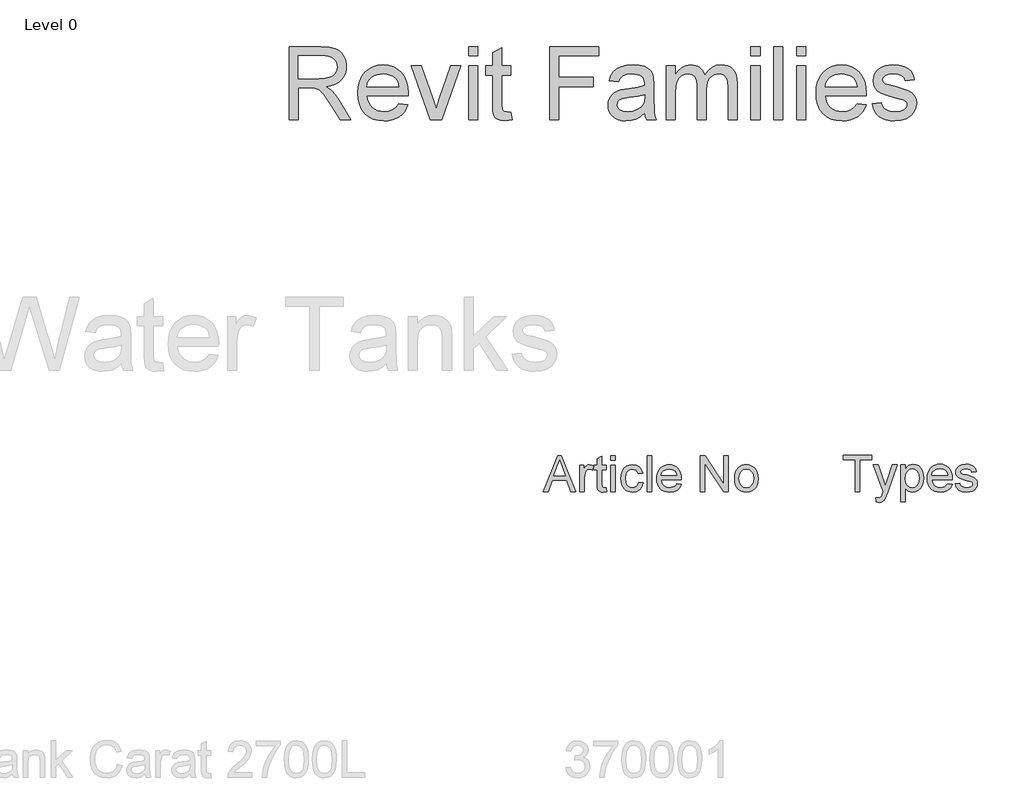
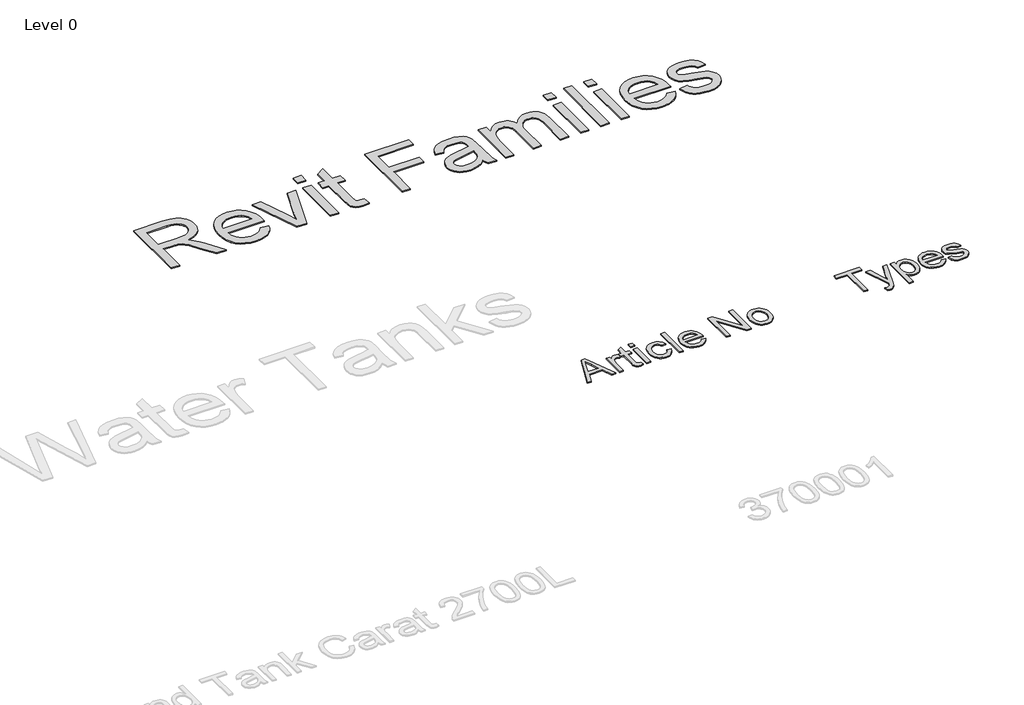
# One storey, part 19 of 19: 3 proxies.
"""IFC4 building model written with IfcOpenShell, lengths in millimetres."""

from ifc_helpers import new_model, si_unit, origin, origin_with_axes, place, context, project, spatial, polyline, outline, extrude, element, save

model = new_model("IFC4")

# Units and contexts
model_context = context("Model", 3, world=origin())
ifc_project = project(units=[si_unit("LENGTHUNIT", "METRE", prefix="MILLI")], contexts=[model_context])

# Site, building, storey
site = spatial("IfcSite", under=ifc_project)
building = spatial("IfcBuilding", under=site)
storey = spatial("IfcBuildingStorey", under=building, Name="Level 0", Elevation=0.0)

# Proxies
placement = place(None, origin())
element("IfcBuildingElementProxy", 1, Name="300mm Arial", ObjectType="300mm Arial", at=placement, inside=storey, context=model_context, shape_type="SweptSolid", body=[
    extrude(outline(polyline([(-3961.8157412, 11653.8274553), (-3961.8157412, 11917.5252695), (-4060.7024215, 11917.5252695), (-4060.7024215, 11955.1963858), (-3825.2579445, 11955.1963858), (-3825.2579445, 11917.5252695), (-3924.1446249, 11917.5252695), (-3924.1446249, 11653.8274553), (-3961.8157412, 11653.8274553)])), origin_with_axes(), (0.0, 0.0, 1.0), 10.0),
    extrude(outline(polyline([(-3787.5868282, 11569.0674436), (-3792.2957178, 11605.3406084), (-3773.165854, 11602.0296704), (-3755.2867891, 11606.186737), (-3744.3239056, 11617.7750198), (-3734.0232097, 11645.5133222), (-3731.0801538, 11654.6367957), (-3811.1312759, 11875.1452636), (-3771.4000205, 11875.1452636), (-3728.9464382, 11752.2726772), (-3714.157582, 11703.1236427), (-3699.3687258, 11746.5337181), (-3655.7379212, 11875.1452636), (-3616.3009713, 11875.1452636), (-3693.3354611, 11648.5299546), (-3713.3482416, 11599.38092), (-3723.5937552, 11583.690753), (-3735.2004321, 11572.81984), (-3748.6833073, 11566.4738756), (-3764.5574153, 11564.3585541), (-3787.5868282, 11569.0674436)])), origin_with_axes(), (0.0, 0.0, 1.0), 10.0),
    extrude(outline(polyline([(-3585.1045781, 11569.0674436), (-3585.1045781, 11875.1452636), (-3547.4334618, 11875.1452636), (-3547.4334618, 11838.2099113), (-3535.1462032, 11856.4292671), (-3521.3874165, 11869.4430927), (-3505.3477615, 11877.2513881), (-3486.2178978, 11879.8541532), (-3460.7420696, 11876.2121214), (-3438.4668148, 11865.2860262), (-3420.3302325, 11847.738055), (-3407.2704216, 11824.2303955), (-3399.3793528, 11796.473699), (-3396.7489966, 11766.1786167), (-3399.7196437, 11733.9613509), (-3408.631585, 11705.1469937), (-3423.199712, 11681.1978758), (-3443.1389162, 11663.5763282), (-3466.3614671, 11652.7330064), (-3490.7796345, 11649.1185658), (-3508.0976795, 11651.5373899), (-3523.5579203, 11658.7938623), (-3536.7924751, 11669.7475487), (-3547.4334618, 11683.2580149), (-3547.4334618, 11569.0674436), (-3585.1045781, 11569.0674436)]), holes=[polyline([(-3547.4334618, 11762.7205259), (-3543.3591687, 11728.9489587), (-3531.1362894, 11705.3309347), (-3513.1008746, 11691.4249952), (-3491.5889749, 11686.7896821), (-3469.7275874, 11691.5905421), (-3451.2323201, 11705.9931223), (-3438.6231647, 11730.475669), (-3434.4201129, 11765.5164291), (-3438.5219971, 11799.1040552), (-3450.8276499, 11823.0531731), (-3468.8354735, 11837.4005709), (-3490.0438705, 11842.1830369), (-3511.335041, 11837.0970683), (-3530.0326434, 11821.8391625), (-3543.0832572, 11796.8875662), (-3547.4334618, 11762.7205259)])]), origin_with_axes(), (0.0, 0.0, 1.0), 10.0),
    extrude(outline(polyline([(-3199.4170944, 11719.7519089), (-3162.481742, 11715.0430193), (-3175.7898732, 11687.2127464), (-3197.0258614, 11666.4090196), (-3225.71146, 11653.4411792), (-3261.3684223, 11649.1185658), (-3284.7427246, 11650.9832677), (-3305.5694441, 11656.5773732), (-3323.8485807, 11665.9008826), (-3339.5801345, 11678.9537956), (-3352.2306766, 11695.3728289), (-3361.2667781, 11714.794699), (-3366.688439, 11737.2194059), (-3368.4956593, 11762.6469495), (-3366.6700449, 11788.9367166), (-3361.1932017, 11812.1086838), (-3352.0651297, 11832.162851), (-3339.2858289, 11849.0992184), (-3323.5956618, 11862.5545023), (-3305.734991, 11872.1654195), (-3285.7038163, 11877.9319697), (-3263.5021379, 11879.8541532), (-3242.0155301, 11877.9365683), (-3222.584463, 11872.1838136), (-3205.2089365, 11862.5958891), (-3189.8889507, 11849.1727948), (-3177.3832621, 11832.2732156), (-3168.4506274, 11812.2558366), (-3163.0910466, 11789.1206576), (-3161.3045197, 11762.8676787), (-3161.5252489, 11752.7141356), (-3330.824543, 11752.7141356), (-3324.3038347, 11724.5159807), (-3309.1562935, 11703.7858303), (-3287.294906, 11691.0387191), (-3260.6326584, 11686.7896821), (-3240.5830896, 11688.7578508), (-3223.697306, 11694.6623568), (-3209.9753076, 11704.8710822), (-3199.4170944, 11719.7519089)]), holes=[polyline([(-3330.824543, 11790.3852519), (-3198.975636, 11790.3852519), (-3204.0708016, 11810.2876679), (-3214.0587978, 11824.5247011), (-3236.0213529, 11837.7684529), (-3263.6492907, 11842.1830369), (-3289.0423454, 11838.6605668), (-3310.0392103, 11828.0931565), (-3324.6349285, 11811.6212401), (-3330.824543, 11790.3852519)])]), origin_with_axes(), (0.0, 0.0, 1.0), 10.0),
    extrude(outline(polyline([(-3137.760072, 11719.7519089), (-3100.0889557, 11724.4607984), (-3094.1476614, 11708.347567), (-3082.6513491, 11696.5017668), (-3065.5264422, 11689.2177033), (-3042.6993644, 11686.7896821), (-3020.1481981, 11689.0153682), (-3004.2924841, 11695.6924264), (-2994.9114932, 11705.3677229), (-2991.7844963, 11716.5881237), (-2994.9298873, 11726.1898438), (-3004.3660605, 11733.5106955), (-3043.1408228, 11744.2528497), (-3099.8682265, 11762.6837377), (-3114.2248213, 11771.9451669), (-3124.6266847, 11784.2048344), (-3130.945058, 11798.6809909), (-3133.0511824, 11814.5918872), (-3131.3589252, 11829.1876054), (-3126.2821537, 11842.6612835), (-3118.2807203, 11854.4794926), (-3107.8144776, 11864.1088038), (-3083.8653597, 11875.2556282), (-3051.4549559, 11879.8541532), (-3026.9356209, 11878.0055461), (-3005.6168593, 11872.4597251), (-2988.4735583, 11863.7593159), (-2976.4806053, 11852.4469445), (-2968.5343542, 11837.6856795), (-2963.531159, 11818.6385892), (-3001.2022754, 11813.9296996), (-3005.9571501, 11825.7846969), (-3015.3657322, 11834.7150324), (-3029.5199919, 11840.3160357), (-3048.5118999, 11842.1830369), (-3070.1433612, 11840.3988092), (-3084.5643355, 11835.0461262), (-3092.6761335, 11827.3206043), (-3095.3800661, 11818.41786), (-3090.8919058, 11807.4549765), (-3076.8388136, 11799.1408434), (-3044.3916216, 11791.1210159), (-2989.0989577, 11773.3891038), (-2974.4940425, 11764.9094238), (-2963.4207944, 11753.3027468), (-2956.4402336, 11738.5322847), (-2954.11338, 11720.5612493), (-2956.8449038, 11701.9832085), (-2965.0394752, 11684.5088137), (-2978.3843946, 11669.5084254), (-2996.5669622, 11658.3524039), (-3018.5295173, 11651.4270253), (-3043.2143992, 11649.1185658), (-3081.1982152, 11653.5699379), (-3108.9181235, 11666.9240544), (-3127.4225879, 11689.0337623), (-3137.760072, 11719.7519089)])), origin_with_axes(), (0.0, 0.0, 1.0), 10.0),
])
element("IfcBuildingElementProxy", 2, Name="300mm Arial", ObjectType="300mm Arial", at=placement, inside=storey, context=model_context, shape_type="SweptSolid", body=[
    extrude(outline(polyline([(-6532.2115467, 11653.8274553), (-6414.3028928, 11949.2120707), (-6382.8605852, 11949.2120707), (-6264.9519313, 11653.8274553), (-6303.9663544, 11653.8274553), (-6337.7884698, 11746.1351476), (-6459.4471236, 11746.1351476), (-6493.1971236, 11653.8274553), (-6532.2115467, 11653.8274553)]), holes=[polyline([(-6445.8894313, 11783.0582246), (-6351.2740467, 11783.0582246), (-6377.8846236, 11855.6784169), (-6398.581739, 11912.2889938), (-6416.9711621, 11862.0245707), (-6445.8894313, 11783.0582246)])]), origin_with_axes(), (0.0, 0.0, 1.0), 10.0),
    extrude(outline(polyline([(-6230.1202005, 11653.8274553), (-6230.1202005, 11870.7505323), (-6197.8125082, 11870.7505323), (-6197.8125082, 11838.6591861), (-6185.8774121, 11857.2649553), (-6174.8798159, 11868.2264938), (-6163.8461621, 11873.5810611), (-6151.8028928, 11875.3659169), (-6133.4134698, 11872.5173592), (-6114.7355852, 11863.9716861), (-6127.0673159, 11830.8707246), (-6140.0480852, 11836.5498111), (-6153.0288544, 11838.44284), (-6164.0534938, 11836.6219265), (-6173.9062582, 11831.1591861), (-6181.8659938, 11822.4692823), (-6187.2115467, 11810.9668784), (-6191.7007294, 11790.3418784), (-6193.1971236, 11767.8418784), (-6193.1971236, 11653.8274553), (-6230.1202005, 11653.8274553)])), origin_with_axes(), (0.0, 0.0, 1.0), 10.0),
    extrude(outline(polyline([(-6013.1971236, 11684.6207246), (-6008.581739, 11652.7457246), (-6036.2019313, 11649.2120707), (-6053.9242871, 11650.7445226), (-6067.1394313, 11655.3418784), (-6076.4783736, 11662.427215), (-6082.5721236, 11671.4236092), (-6085.925489, 11686.8743303), (-6087.0432775, 11713.3226476), (-6087.0432775, 11833.8274553), (-6114.7355852, 11833.8274553), (-6114.7355852, 11870.7505323), (-6087.0432775, 11870.7505323), (-6087.0432775, 11923.4668784), (-6050.1202005, 11945.1736092), (-6050.1202005, 11870.7505323), (-6013.1971236, 11870.7505323), (-6013.1971236, 11833.8274553), (-6050.1202005, 11833.8274553), (-6050.1202005, 11714.4043784), (-6048.1730852, 11695.3659169), (-6041.862989, 11688.6231284), (-6029.2788544, 11686.1351476), (-6013.1971236, 11684.6207246)])), origin_with_axes(), (0.0, 0.0, 1.0), 10.0),
    extrude(outline(polyline([(-5976.2740467, 11912.2889938), (-5976.2740467, 11949.2120707), (-5939.3509698, 11949.2120707), (-5939.3509698, 11912.2889938), (-5976.2740467, 11912.2889938)])), origin_with_axes(), (0.0, 0.0, 1.0), 10.0),
    extrude(outline(polyline([(-5976.2740467, 11653.8274553), (-5976.2740467, 11870.7505323), (-5939.3509698, 11870.7505323), (-5939.3509698, 11653.8274553), (-5976.2740467, 11653.8274553)])), origin_with_axes(), (0.0, 0.0, 1.0), 10.0),
    extrude(outline(polyline([(-5745.5048159, 11732.2889938), (-5708.581739, 11727.6736092), (-5718.8762102, 11694.8340659), (-5738.2211621, 11670.0173592), (-5764.7956813, 11654.4133928), (-5796.7788544, 11649.2120707), (-5817.4872378, 11651.0262234), (-5836.0546957, 11656.4686813), (-5852.4812282, 11665.5394445), (-5866.7668352, 11678.238513), (-5878.3300864, 11694.3270046), (-5886.5895515, 11713.5660371), (-5891.5452306, 11735.9556104), (-5893.1971236, 11761.4957246), (-5890.3756092, 11794.3532967), (-5881.9110659, 11822.8298592), (-5867.6682775, 11845.8256525), (-5847.5120275, 11862.2409169), (-5823.3984457, 11872.0846669), (-5797.2836621, 11875.3659169), (-5766.0847438, 11870.8587053), (-5741.1418352, 11857.3370707), (-5723.2482053, 11835.5221669), (-5713.1971236, 11806.1351476), (-5750.1202005, 11801.519763), (-5756.8179169, 11817.6285371), (-5767.2476044, 11829.176013), (-5780.83234, 11836.1261332), (-5796.9952005, 11838.44284), (-5820.8563784, 11833.8815419), (-5839.7956813, 11820.1976476), (-5852.1544553, 11796.6519746), (-5856.2740467, 11762.50534), (-5852.2445996, 11727.8989698), (-5840.1562582, 11704.2721669), (-5821.5595034, 11690.6694025), (-5798.0048159, 11686.1351476), (-5778.8852246, 11688.9656765), (-5763.2091428, 11697.457263), (-5751.8058977, 11711.8262534), (-5745.5048159, 11732.2889938)])), origin_with_axes(), (0.0, 0.0, 1.0), 10.0),
    extrude(outline(polyline([(-5676.2740467, 11653.8274553), (-5676.2740467, 11949.2120707), (-5639.3509698, 11949.2120707), (-5639.3509698, 11653.8274553), (-5676.2740467, 11653.8274553)])), origin_with_axes(), (0.0, 0.0, 1.0), 10.0),
    extrude(outline(polyline([(-5432.0913544, 11718.44284), (-5395.8894313, 11713.8274553), (-5408.9333015, 11686.5498111), (-5429.7476044, 11666.1591861), (-5457.86359, 11653.4488496), (-5492.8125082, 11649.2120707), (-5515.7226645, 11651.039745), (-5536.1358255, 11656.5227678), (-5554.0519914, 11665.6611392), (-5569.4711621, 11678.4548592), (-5581.870501, 11694.547858), (-5590.7271717, 11713.5840659), (-5596.0411741, 11735.563483), (-5597.8125082, 11760.4861092), (-5596.0231453, 11786.2538375), (-5590.6550563, 11808.9656765), (-5581.7082414, 11828.621626), (-5569.1827005, 11845.2216861), (-5553.8040948, 11858.4097871), (-5536.2980852, 11867.8298592), (-5516.6646717, 11873.4819025), (-5494.9038544, 11875.3659169), (-5473.8439085, 11873.4864097), (-5454.7986861, 11867.847888), (-5437.7681873, 11858.450352), (-5422.7524121, 11845.2938015), (-5410.4950503, 11828.7297991), (-5401.7397919, 11809.1099073), (-5396.4866368, 11786.434126), (-5394.7355852, 11760.7024553), (-5394.9519313, 11750.7505323), (-5560.8894313, 11750.7505323), (-5554.4982053, 11723.1123111), (-5539.6514505, 11702.7938015), (-5518.2241669, 11690.2998111), (-5492.0913544, 11686.1351476), (-5472.4399121, 11688.0642342), (-5455.8894313, 11693.8514938), (-5442.4399121, 11703.8575034), (-5432.0913544, 11718.44284)]), holes=[polyline([(-5560.8894313, 11787.6736092), (-5431.6586621, 11787.6736092), (-5436.6526525, 11807.1808207), (-5446.4423159, 11821.1351476), (-5467.9687582, 11834.1159169), (-5495.0480852, 11838.44284), (-5519.9369073, 11834.9903159), (-5540.5168352, 11824.6327438), (-5554.8227246, 11808.4879121), (-5560.8894313, 11787.6736092)])]), origin_with_axes(), (0.0, 0.0, 1.0), 10.0),
    extrude(outline(polyline([(-5237.8125082, 11653.8274553), (-5237.8125082, 11949.2120707), (-5198.2932775, 11949.2120707), (-5043.9663544, 11715.1976476), (-5043.9663544, 11949.2120707), (-5007.0432775, 11949.2120707), (-5007.0432775, 11653.8274553), (-5046.5625082, 11653.8274553), (-5200.8894313, 11887.9139938), (-5200.8894313, 11653.8274553), (-5237.8125082, 11653.8274553)])), origin_with_axes(), (0.0, 0.0, 1.0), 10.0),
    extrude(outline(polyline([(-4956.2740467, 11762.2889938), (-4954.277352, 11790.3824433), (-4948.2872678, 11814.5906765), (-4938.3037943, 11834.9136933), (-4924.3269313, 11851.3514938), (-4910.2554169, 11861.8578039), (-4894.7235659, 11869.3623111), (-4877.7313784, 11873.8650154), (-4859.2788544, 11875.3659169), (-4838.9085118, 11873.5382426), (-4820.4897919, 11868.0552198), (-4804.0226945, 11858.9168484), (-4789.5072198, 11846.1231284), (-4777.6600142, 11830.1067522), (-4769.1977246, 11811.3004121), (-4764.1203508, 11789.704108), (-4762.4278928, 11765.31784), (-4765.4206813, 11728.0161573), (-4774.3990467, 11699.6207246), (-4789.1015707, 11678.3557005), (-4809.2668352, 11662.4452438), (-4833.2181573, 11652.520364), (-4859.2788544, 11649.2120707), (-4879.9466729, 11651.0329842), (-4898.5366669, 11656.4957246), (-4915.0488364, 11665.6002919), (-4929.4831813, 11678.3466861), (-4941.2041849, 11694.5185611), (-4949.5763303, 11713.8995707), (-4954.5996176, 11736.489715), (-4956.2740467, 11762.2889938)]), holes=[polyline([(-4919.3509698, 11762.3611092), (-4915.0781332, 11728.9446428), (-4902.2596236, 11705.1375515), (-4882.9687582, 11690.8857486), (-4859.2788544, 11686.1351476), (-4835.6971236, 11690.9127919), (-4816.4423159, 11705.2457246), (-4803.6238063, 11729.3683207), (-4799.3509698, 11763.5149553), (-4803.6508496, 11795.957864), (-4816.550489, 11819.4404361), (-4835.83234, 11833.692239), (-4859.2788544, 11838.44284), (-4882.9687582, 11833.7102678), (-4902.2596236, 11819.5125515), (-4915.0781332, 11795.7595467), (-4919.3509698, 11762.3611092)])]), origin_with_axes(), (0.0, 0.0, 1.0), 10.0),
])
element("IfcBuildingElementProxy", 3, Name="600mm Arial", ObjectType="600mm Arial", at=placement, inside=storey, context=model_context, shape_type="SweptSolid", body=[
    extrude(outline(polyline([(-8626.1144326, 14719.3449091), (-8626.1144326, 15322.08277), (-8366.389744, 15322.08277), (-8296.5841354, 15318.017674), (-8245.798026, 15305.8223859), (-8226.1991127, 15296.1286953), (-8208.6787327, 15283.3080077), (-8193.2368859, 15267.3603233), (-8179.8735725, 15248.2856418), (-8169.0900315, 15227.1094345), (-8161.3875022, 15204.8571723), (-8156.7659846, 15181.5288553), (-8155.2254788, 15157.1244834), (-8157.7776601, 15126.1672135), (-8165.4342042, 15097.7483294), (-8178.1951109, 15071.867831), (-8196.0603802, 15048.5257184), (-8219.2599386, 15028.4669526), (-8248.0237121, 15012.4364947), (-8282.3517007, 15000.4343446), (-8322.2439046, 14992.4605024), (-8297.4118699, 14976.2369064), (-8279.4224404, 14960.2340396), (-8248.557141, 14923.6297811), (-8218.3540292, 14882.684515), (-8117.8486681, 14719.3449091), (-8205.4045829, 14719.3449091), (-8283.8370243, 14844.2776347), (-8340.4908516, 14926.9775072), (-8361.5520958, 14951.092172), (-8380.2956834, 14966.0465751), (-8416.1273898, 14980.3939729), (-8459.8317708, 14983.0427233), (-8550.7722, 14983.0427233), (-8550.7722, 14719.3449091), (-8626.1144326, 14719.3449091)]), holes=[polyline([(-8550.7722, 15058.3849559), (-8382.1350934, 15058.3849559), (-8333.7034287, 15061.0521004), (-8296.1242829, 15069.0535338), (-8267.8341575, 15082.922685), (-8247.269554, 15103.1929829), (-8234.743172, 15127.7123179), (-8230.5677114, 15154.3285802), (-8232.5588727, 15173.5963997), (-8238.5323566, 15191.0799916), (-8248.4881631, 15206.7793557), (-8262.4262922, 15220.6944922), (-8280.6686406, 15232.089637), (-8303.5371051, 15240.2290261), (-8331.0316858, 15245.1126596), (-8363.1523825, 15246.7405374), (-8550.7722, 15246.7405374), (-8550.7722, 15058.3849559)])]), origin_with_axes(), (0.0, 0.0, 1.0), 10.0),
    extrude(outline(polyline([(-7722.8905581, 14851.1938162), (-7649.0198534, 14841.7760371), (-7660.3460203, 14812.1891277), (-7675.6361158, 14786.1154913), (-7694.8901397, 14763.5551279), (-7718.1080921, 14744.5080376), (-7745.0508497, 14729.3788906), (-7775.4792893, 14718.572357), (-7809.3934107, 14712.0884368), (-7846.793214, 14709.9271301), (-7893.5418186, 14713.6565338), (-7935.1952575, 14724.844745), (-7971.7535307, 14743.4917636), (-8003.2166384, 14769.5975897), (-8028.5177226, 14802.4356563), (-8046.5899256, 14841.2793964), (-8057.4332474, 14886.1288102), (-8061.047688, 14936.9838975), (-8057.3964592, 14989.5634316), (-8046.4427728, 15035.907366), (-8028.1866288, 15076.0157005), (-8002.6280272, 15109.8884352), (-7971.247693, 15136.7990032), (-7935.5263513, 15156.0208374), (-7895.464002, 15167.553938), (-7851.0606452, 15171.3983048), (-7808.0874296, 15167.563135), (-7769.2252953, 15156.0576256), (-7734.4742424, 15136.8817766), (-7703.8342707, 15110.035588), (-7678.8228936, 15076.2364297), (-7660.9576242, 15036.2016716), (-7650.2384625, 14989.9313136), (-7646.6654087, 14937.4253559), (-7647.106867, 14917.1182697), (-7985.7054554, 14917.1182697), (-7981.3414552, 14887.0531137), (-7972.6640387, 14860.7219599), (-7959.6732057, 14838.1248083), (-7942.3689564, 14819.261659), (-7921.7077838, 14804.3900294), (-7898.6461812, 14793.7674368), (-7873.1841487, 14787.3938812), (-7845.321686, 14785.2693627), (-7805.2225486, 14789.2057), (-7771.4509814, 14801.0147121), (-7744.0069846, 14821.4321628), (-7722.8905581, 14851.1938162)]), holes=[polyline([(-7985.7054554, 14992.4605024), (-7722.0076413, 14992.4605024), (-7732.1979725, 15032.2653342), (-7740.9627611, 15047.9187131), (-7752.1739649, 15060.7394007), (-7772.7201743, 15076.1904445), (-7796.0990751, 15087.2269043), (-7822.3106672, 15093.8487802), (-7851.3549508, 15096.0560722), (-7877.8470529, 15094.2948372), (-7902.1410602, 15089.011132), (-7924.2369725, 15080.2049567), (-7944.13479, 15067.8763114), (-7960.832034, 15052.595413), (-7973.3262263, 15034.9324787), (-7981.6173667, 15014.8875085), (-7985.7054554, 14992.4605024)])]), origin_with_axes(), (0.0, 0.0, 1.0), 10.0),
    extrude(outline(polyline([(-7462.7244111, 14719.3449091), (-7618.4120714, 15161.9805257), (-7538.6552549, 15161.9805257), (-7444.3303113, 14896.8111836), (-7415.9298213, 14807.636588), (-7388.1179424, 14891.8079885), (-7293.2043877, 15161.9805257), (-7213.4475711, 15161.9805257), (-7367.2222451, 14719.3449091), (-7462.7244111, 14719.3449091)])), origin_with_axes(), (0.0, 0.0, 1.0), 10.0),
    extrude(outline(polyline([(-7147.5231176, 15246.7405374), (-7147.5231176, 15322.08277), (-7072.180885, 15322.08277), (-7072.180885, 15246.7405374), (-7147.5231176, 15246.7405374)])), origin_with_axes(), (0.0, 0.0, 1.0), 10.0),
    extrude(outline(polyline([(-7147.5231176, 14719.3449091), (-7147.5231176, 15161.9805257), (-7072.180885, 15161.9805257), (-7072.180885, 14719.3449091), (-7147.5231176, 14719.3449091)])), origin_with_axes(), (0.0, 0.0, 1.0), 10.0),
    extrude(outline(polyline([(-6799.0652918, 14782.1791539), (-6789.6475127, 14717.1376172), (-6846.0070343, 14709.9271301), (-6882.1698345, 14713.054127), (-6909.1355847, 14722.4351179), (-6928.1918721, 14736.8928803), (-6940.6262835, 14755.2501919), (-6947.4688886, 14786.7776789), (-6949.749757, 14840.7459676), (-6949.749757, 15086.6382931), (-7006.2564314, 15086.6382931), (-7006.2564314, 15161.9805257), (-6949.749757, 15161.9805257), (-6949.749757, 15269.5492211), (-6874.4075244, 15313.8422133), (-6874.4075244, 15161.9805257), (-6799.0652918, 15161.9805257), (-6799.0652918, 15086.6382931), (-6874.4075244, 15086.6382931), (-6874.4075244, 14842.9532595), (-6870.4343988, 14804.1049208), (-6857.558529, 14790.3461342), (-6846.687616, 14786.5385556), (-6831.8803657, 14785.2693627), (-6799.0652918, 14782.1791539)])), origin_with_axes(), (0.0, 0.0, 1.0), 10.0),
    extrude(outline(polyline([(-6478.8608032, 14719.3449091), (-6478.8608032, 15322.08277), (-6073.8963029, 15322.08277), (-6073.8963029, 15246.7405374), (-6403.5185706, 15246.7405374), (-6403.5185706, 15067.802735), (-6120.9851983, 15067.802735), (-6120.9851983, 14992.4605024), (-6403.5185706, 14992.4605024), (-6403.5185706, 14719.3449091), (-6478.8608032, 14719.3449091)])), origin_with_axes(), (0.0, 0.0, 1.0), 10.0),
    extrude(outline(polyline([(-5697.1851398, 14775.8515836), (-5733.182393, 14744.9862842), (-5770.2465041, 14724.7895627), (-5809.2236014, 14713.6427382), (-5850.9598138, 14709.9271301), (-5884.5060532, 14712.1620132), (-5913.9228173, 14718.8666625), (-5939.2101059, 14730.0410782), (-5960.3679192, 14745.68526), (-5977.0743603, 14764.8059267), (-5989.0075325, 14786.4097969), (-5996.1674358, 14810.4968705), (-5998.5540703, 14837.0671476), (-5994.9488267, 14868.300329), (-5984.133096, 14896.6640308), (-5967.4496476, 14920.9442425), (-5946.2412505, 14939.9269535), (-5921.3172454, 14954.2743513), (-5893.4869724, 14964.6486235), (-5828.2982829, 14975.979389), (-5751.2637931, 14987.8987656), (-5697.6265982, 15001.8782814), (-5697.1851398, 15018.6537004), (-5702.3722759, 15052.2781148), (-5708.8561961, 15064.7309203), (-5717.9336843, 15074.2774581), (-5733.6238514, 15083.8056018), (-5752.7353211, 15090.6114187), (-5801.222168, 15096.0560722), (-5846.1037715, 15092.4324346), (-5877.4473174, 15081.5615216), (-5898.8212614, 15061.4567706), (-5913.7940586, 15030.1316187), (-5989.1362912, 15039.5493977), (-5976.0580863, 15080.7521812), (-5956.5419464, 15113.1257968), (-5928.7668558, 15137.8842551), (-5890.9117985, 15156.2415666), (-5844.6138494, 15167.6091203), (-5791.5100834, 15171.3983048), (-5740.5768211, 15168.0505787), (-5700.2017722, 15158.0074002), (-5669.7595371, 15142.9058443), (-5648.6247164, 15124.3829858), (-5634.6084124, 15101.4823316), (-5625.5217272, 15073.2473885), (-5621.8429072, 15007.322935), (-5621.8429072, 14913.5866026), (-5618.0169344, 14782.6941887), (-5612.3515517, 14750.3389672), (-5603.007349, 14719.3449091), (-5678.3495817, 14719.3449091), (-5690.4161111, 14745.5381072), (-5697.1851398, 14775.8515836)]), holes=[polyline([(-5697.1851398, 14926.5360488), (-5747.8057023, 14913.9912728), (-5818.733351, 14903.4330595), (-5883.5541586, 14891.2193773), (-5900.421548, 14882.868456), (-5912.9111418, 14871.3537495), (-5920.6366637, 14857.5581747), (-5923.2118376, 14842.3646483), (-5917.6016372, 14819.9606348), (-5900.7710359, 14801.6033233), (-5873.0879158, 14789.3528528), (-5834.9201588, 14785.2693627), (-5794.4531393, 14789.7759171), (-5758.6950094, 14803.2955804), (-5729.7059082, 14823.2163905), (-5709.5459748, 14846.9263851), (-5700.6064424, 14871.3537495), (-5697.6265982, 14905.1988931), (-5697.1851398, 14926.5360488)])]), origin_with_axes(), (0.0, 0.0, 1.0), 10.0),
    extrude(outline(polyline([(-5518.2473374, 14719.3449091), (-5518.2473374, 15161.9805257), (-5442.9051047, 15161.9805257), (-5442.9051047, 15089.1398907), (-5420.2435738, 15122.5987582), (-5391.1073198, 15148.8103503), (-5356.4896241, 15165.7513162), (-5317.383768, 15171.3983048), (-5275.4820087, 15165.6409516), (-5257.648929, 15158.4442601), (-5241.8943826, 15148.3688919), (-5216.8048305, 15120.72256), (-5200.3972935, 15083.84239), (-5172.9349026, 15122.1481027), (-5141.6097507, 15149.5093261), (-5106.4218379, 15165.9260601), (-5067.3711641, 15171.3983048), (-5037.209439, 15169.122035), (-5010.7357309, 15162.2932254), (-4987.9500398, 15150.9118762), (-4968.8523658, 15134.9779873), (-4953.7554084, 15114.3076177), (-4942.9718674, 15088.7168264), (-4936.5017428, 15058.2056134), (-4934.3450346, 15022.7739788), (-4934.3450346, 14719.3449091), (-5009.6872672, 14719.3449091), (-5009.6872672, 14990.4003632), (-5011.4347067, 15027.979509), (-5016.6770251, 15053.3081844), (-5026.4994744, 15070.6538204), (-5041.9873064, 15084.2838484), (-5061.9081164, 15093.1130162), (-5085.0294998, 15096.0560722), (-5106.3804511, 15094.170677), (-5125.8460072, 15088.5144913), (-5143.426168, 15079.0875152), (-5159.1209337, 15065.8897486), (-5172.0289932, 15048.5349155), (-5181.2490357, 15026.6367397), (-5186.7810612, 15000.1952213), (-5188.6250697, 14969.2103603), (-5188.6250697, 14719.3449091), (-5263.9673023, 14719.3449091), (-5263.9673023, 14998.7880727), (-5268.3267039, 15041.3888077), (-5273.775956, 15058.1090444), (-5281.4049089, 15071.7758605), (-5291.5170652, 15082.3984531), (-5304.4159277, 15089.9860193), (-5320.1014962, 15094.538559), (-5338.5737709, 15096.0560722), (-5367.5996603, 15092.0093703), (-5394.3446814, 15079.8692644), (-5416.4176011, 15059.9300603), (-5431.4271865, 15032.4860634), (-5440.0356252, 14994.4102769), (-5442.9051047, 14942.5757038), (-5442.9051047, 14719.3449091), (-5518.2473374, 14719.3449091)])), origin_with_axes(), (0.0, 0.0, 1.0), 10.0),
    extrude(outline(polyline([(-4821.3316857, 15246.7405374), (-4821.3316857, 15322.08277), (-4745.9894531, 15322.08277), (-4745.9894531, 15246.7405374), (-4821.3316857, 15246.7405374)])), origin_with_axes(), (0.0, 0.0, 1.0), 10.0),
    extrude(outline(polyline([(-4821.3316857, 14719.3449091), (-4821.3316857, 15161.9805257), (-4745.9894531, 15161.9805257), (-4745.9894531, 14719.3449091), (-4821.3316857, 14719.3449091)])), origin_with_axes(), (0.0, 0.0, 1.0), 10.0),
    extrude(outline(polyline([(-4632.9761042, 14719.3449091), (-4632.9761042, 15322.08277), (-4557.6338716, 15322.08277), (-4557.6338716, 14719.3449091), (-4632.9761042, 14719.3449091)])), origin_with_axes(), (0.0, 0.0, 1.0), 10.0),
    extrude(outline(polyline([(-4444.6205226, 15246.7405374), (-4444.6205226, 15322.08277), (-4369.27829, 15322.08277), (-4369.27829, 15246.7405374), (-4444.6205226, 15246.7405374)])), origin_with_axes(), (0.0, 0.0, 1.0), 10.0),
    extrude(outline(polyline([(-4444.6205226, 14719.3449091), (-4444.6205226, 15161.9805257), (-4369.27829, 15161.9805257), (-4369.27829, 14719.3449091), (-4444.6205226, 14719.3449091)])), origin_with_axes(), (0.0, 0.0, 1.0), 10.0),
    extrude(outline(polyline([(-3946.3611484, 14851.1938162), (-3872.4904437, 14841.7760371), (-3883.8166107, 14812.1891277), (-3899.1067061, 14786.1154913), (-3918.36073, 14763.5551279), (-3941.5786824, 14744.5080376), (-3968.5214401, 14729.3788906), (-3998.9498796, 14718.572357), (-4032.864001, 14712.0884368), (-4070.2638043, 14709.9271301), (-4117.0124089, 14713.6565338), (-4158.6658478, 14724.844745), (-4195.2241211, 14743.4917636), (-4226.6872287, 14769.5975897), (-4251.9883129, 14802.4356563), (-4270.0605159, 14841.2793964), (-4280.9038377, 14886.1288102), (-4284.5182783, 14936.9838975), (-4280.8670495, 14989.5634316), (-4269.9133631, 15035.907366), (-4251.6572191, 15076.0157005), (-4226.0986175, 15109.8884352), (-4194.7182833, 15136.7990032), (-4158.9969416, 15156.0208374), (-4118.9345923, 15167.553938), (-4074.5312355, 15171.3983048), (-4031.5580199, 15167.563135), (-3992.6958857, 15156.0576256), (-3957.9448327, 15136.8817766), (-3927.304861, 15110.035588), (-3902.2934839, 15076.2364297), (-3884.4282145, 15036.2016716), (-3873.7090528, 14989.9313136), (-3870.135999, 14937.4253559), (-3870.5774574, 14917.1182697), (-4209.1760457, 14917.1182697), (-4204.8120456, 14887.0531137), (-4196.134629, 14860.7219599), (-4183.143796, 14838.1248083), (-4165.8395467, 14819.261659), (-4145.1783741, 14804.3900294), (-4122.1167716, 14793.7674368), (-4096.654739, 14787.3938812), (-4068.7922764, 14785.2693627), (-4028.6931389, 14789.2057), (-3994.9215717, 14801.0147121), (-3967.4775749, 14821.4321628), (-3946.3611484, 14851.1938162)]), holes=[polyline([(-4209.1760457, 14992.4605024), (-3945.4782316, 14992.4605024), (-3955.6685628, 15032.2653342), (-3964.4333514, 15047.9187131), (-3975.6445552, 15060.7394007), (-3996.1907646, 15076.1904445), (-4019.5696654, 15087.2269043), (-4045.7812576, 15093.8487802), (-4074.8255411, 15096.0560722), (-4101.3176433, 15094.2948372), (-4125.6116505, 15089.011132), (-4147.7075629, 15080.2049567), (-4167.6053803, 15067.8763114), (-4184.3026243, 15052.595413), (-4196.7968166, 15034.9324787), (-4205.087957, 15014.8875085), (-4209.1760457, 14992.4605024)])]), origin_with_axes(), (0.0, 0.0, 1.0), 10.0),
    extrude(outline(polyline([(-3823.0471036, 14851.1938162), (-3747.704871, 14860.6115953), (-3743.1523313, 14843.4315061), (-3735.8222825, 14828.3851325), (-3725.7147247, 14815.4724745), (-3712.8296578, 14804.693532), (-3697.1302937, 14796.1954579), (-3678.5798441, 14790.125405), (-3632.9256885, 14785.2693627), (-3587.8233559, 14789.7207348), (-3570.2937788, 14795.28495), (-3556.1119279, 14803.0748512), (-3537.3499461, 14822.4254442), (-3532.6594507, 14833.2595689), (-3531.0959522, 14844.8662459), (-3532.6686477, 14855.0381831), (-3537.3867343, 14864.069686), (-3556.2590807, 14878.7113895), (-3584.4756297, 14888.2763213), (-3633.8086053, 14900.195698), (-3702.5657502, 14920.0797198), (-3747.2634126, 14937.0574739), (-3775.9766023, 14955.5803323), (-3796.7803291, 14980.0996673), (-3809.4170757, 15009.0519803), (-3813.6293245, 15040.8737729), (-3810.2448102, 15070.0652092), (-3800.0912671, 15097.0125654), (-3784.0884003, 15120.6489836), (-3763.1559148, 15139.907606), (-3742.3521879, 15152.0293178), (-3715.257679, 15162.2012549), (-3683.9325271, 15169.0990423), (-3650.4368714, 15171.3983048), (-3601.3982015, 15167.7010908), (-3558.7606782, 15156.6094486), (-3524.4740763, 15139.2086302), (-3500.4881702, 15116.5838875), (-3484.595668, 15087.0613574), (-3474.5892778, 15048.9671768), (-3549.9315104, 15039.5493977), (-3559.4412599, 15063.2593923), (-3578.258424, 15081.1200632), (-3606.5669435, 15092.32207), (-3644.5507595, 15096.0560722), (-3687.8136822, 15092.4876169), (-3716.6556306, 15081.7822508), (-3732.8792266, 15066.331207), (-3738.2870919, 15048.5257184), (-3736.0430117, 15036.9374356), (-3729.3107712, 15026.5999515), (-3717.7960648, 15017.3661134), (-3701.2045868, 15009.9716853), (-3636.3102028, 14993.9320303), (-3525.7248751, 14958.468206), (-3496.5150447, 14941.508846), (-3474.3685486, 14918.2954921), (-3460.4074268, 14888.7545679), (-3455.7537196, 14852.812497), (-3461.2167672, 14815.6564155), (-3477.6059101, 14780.7076259), (-3504.2957489, 14750.7068492), (-3540.6608841, 14728.3948062), (-3584.5859943, 14714.5440491), (-3633.9557581, 14709.9271301), (-3674.505551, 14712.1528161), (-3709.9233901, 14718.8298743), (-3740.2092753, 14729.9583047), (-3765.3632067, 14745.5381072), (-3785.9094162, 14765.4957054), (-3802.3721355, 14789.757523), (-3814.7513646, 14818.3235599), (-3823.0471036, 14851.1938162)])), origin_with_axes(), (0.0, 0.0, 1.0), 10.0),
])

save(model, "model.ifc")
